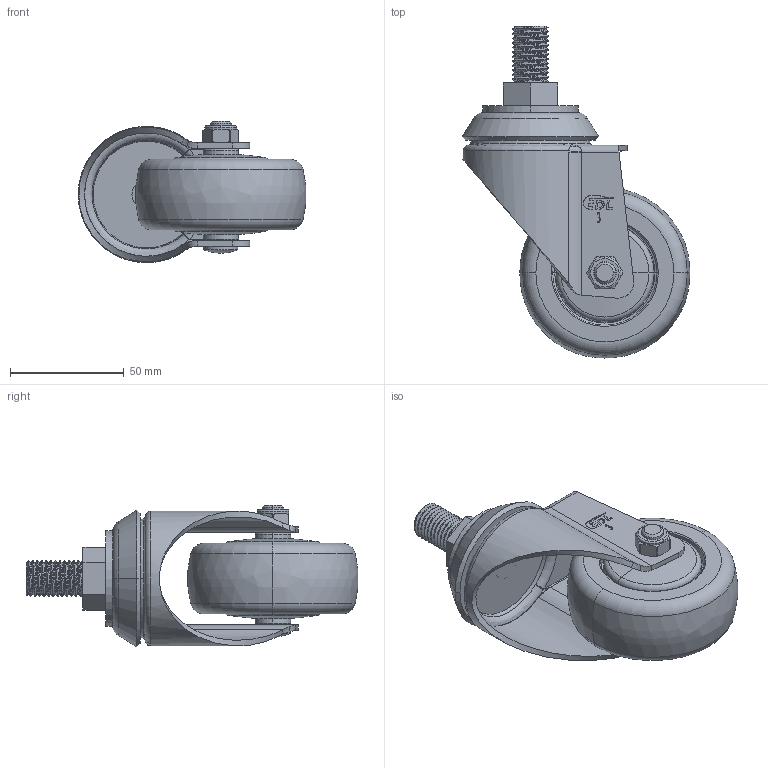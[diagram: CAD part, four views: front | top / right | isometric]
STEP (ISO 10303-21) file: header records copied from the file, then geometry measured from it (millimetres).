
FILE_DESCRIPTION((''),'2;1');
FILE_NAME('57233-573-77_ASM','2021-01-05T',('lenovo'),(''),'PRO/ENGINEER BY PARAMETRIC TECHNOLOGY CORPORATION, 2010280','PRO/ENGINEER BY PARAMETRIC TECHNOLOGY CORPORATION, 2010280','');
FILE_SCHEMA(('CONFIG_CONTROL_DESIGN'));
Length unit declared in the file: millimetre
Products named in the file (7): 5010-053; 5723-311; 5720-211; 573-77; 5710-020; 5710-031; 57233-573-77_ASM
Assembly tree (6 placements, depth 2):
  57233-573-77_ASM
    5010-053
    5723-311
    5720-211
    573-77
    5710-020
    5710-031
Bounding box: 100.05 x 145.85 x 62.25 mm (x, y, z)
Volume: 197149.1 mm3; surface area: 54661.5 mm2
Topology: 6 solids, 6 shells, 333 faces, 831 edges, 521 vertices
Faces by surface type: plane 139, cylinder 75, bspline 52, torus 32, cone 29, sphere 6
Entity records: 15088 total; most frequent: CARTESIAN_POINT 7317, ORIENTED_EDGE 1658, DIRECTION 1480, EDGE_CURVE 829, AXIS2_PLACEMENT_3D 524, VERTEX_POINT 521, VECTOR 432, LINE 432
